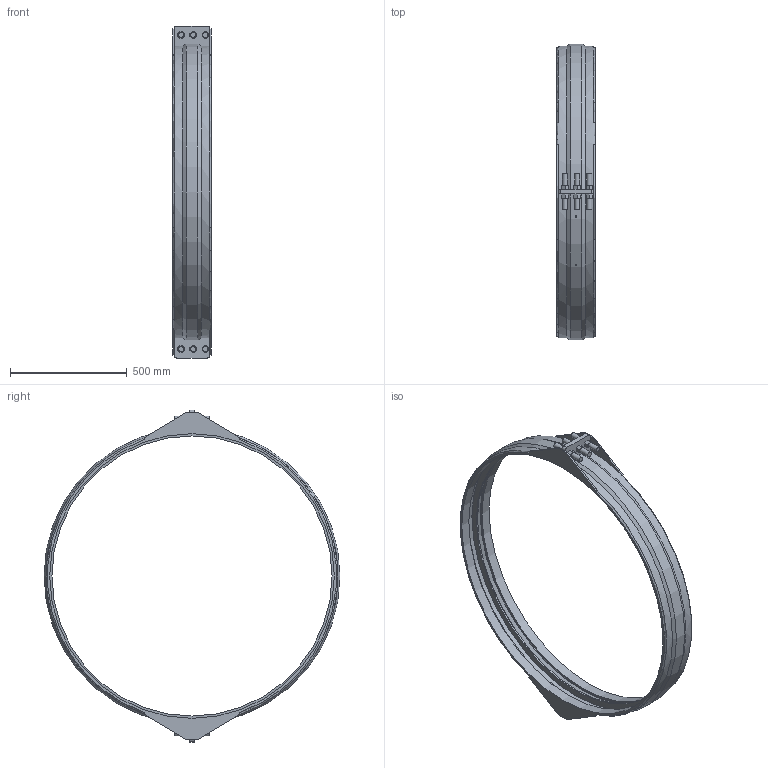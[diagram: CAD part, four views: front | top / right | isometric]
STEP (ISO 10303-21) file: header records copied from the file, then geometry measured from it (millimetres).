
FILE_DESCRIPTION(/* description */ ('VIC SS RESTRAINED COUPLING STYLE 234S (FLEX) (BRS)','CAx-IF Rec.Pracs.---Representation and Presentation of Product Manufacturing Information (PMI)---4.0---2014-10-13'),/* implementation_level */ '2;1');
FILE_NAME(/* name */ 'C:\Users\kkamble\AppData\Roaming\Autodesk\ApplicationPlugins\Back Up\Victaulic_VBSP_Coupling Flexible Restrained_Style 234S (BRS)\Victaulic_VBSP_Coupling Flexible Restrained_Style 234S (BRS)_50psi_48 (1200).stp',/* time_stamp */ '2020-09-22T18:42:08+05:00',/* author */ ('Vjadhav'),/* organization */ ('Victaulic'),/* preprocessor_version */ 'ST-DEVELOPER v17.2',/* originating_system */ 'Autodesk Inventor 2019',/* authorisation */ '');
FILE_SCHEMA (('AP242_MANAGED_MODEL_BASED_3D_ENGINEERING_MIM_LF { 1 0 10303 442 1 1 4 }'));
Length unit declared in the file: inch
Products named in the file (1): Style_234S_Type_2_50psi-48.0
Bounding box: 165.1 x 1267.71 x 1422.4 mm (x, y, z)
Volume: 9117443 mm3; surface area: 1943265.4 mm2
Topology: 1 solids, 1 shells, 191 faces, 477 edges, 316 vertices
Faces by surface type: plane 136, cylinder 43, torus 6, cone 6
Full cylindrical faces by diameter (mm): 22.225 x12, 1200.15 x1, 1219.2 x2, 1255.01 x2
Entity records: 6154 total; most frequent: CARTESIAN_POINT 1162, DIRECTION 989, ORIENTED_EDGE 954, EDGE_CURVE 477, LINE 343, VECTOR 343, AXIS2_PLACEMENT_3D 323, VERTEX_POINT 316
